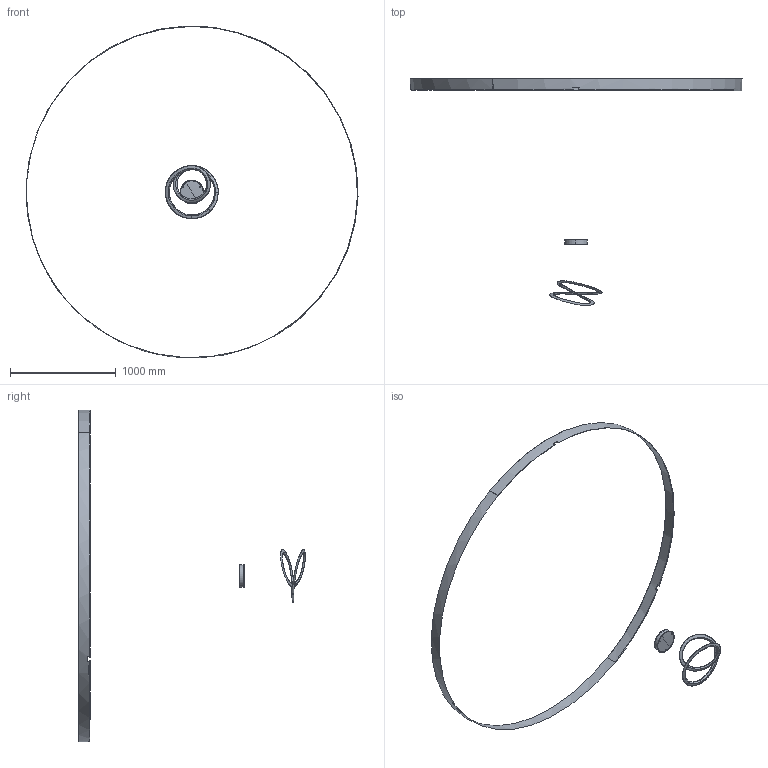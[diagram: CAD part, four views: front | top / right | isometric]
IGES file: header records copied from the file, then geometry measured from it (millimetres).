
Start section: SolidWorks IGES file using analytic representation for surfaces
Global section: file name: N:\- Ingeneria\DISEGNI\PRODOTTI\KEPLER\800KESLWW521_Kepler Petit DW\Documenti\SEMPLIFICATO\kepler petit.IGS; native system: SolidWorks 2016; preprocessor: SolidWorks 2016; author: merba; date: 201113.164942; units: millimetre
Bounding box: 3136.58 x 2143.06 x 3136.26 mm (x, y, z)
Surface area: 1940403.9 mm2 (no closed solid volume)
Topology: 0 solids, 0 shells, 114 faces, 1257 edges, 1256 vertices
Faces by surface type: bspline 74, revolution 40
